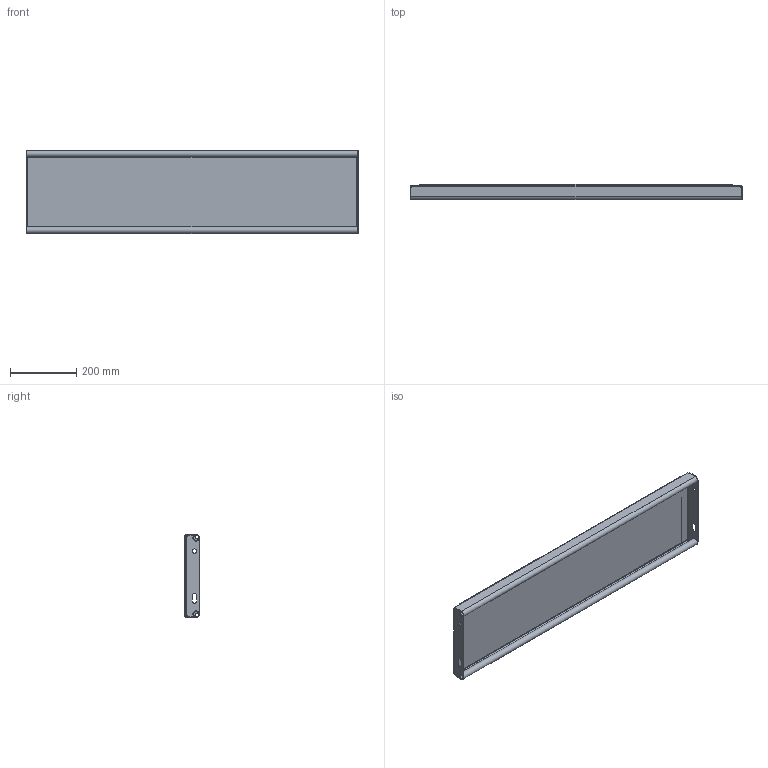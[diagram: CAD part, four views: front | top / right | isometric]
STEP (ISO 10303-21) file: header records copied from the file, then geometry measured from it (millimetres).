
FILE_DESCRIPTION (( 'STEP AP214' ), '1' );
FILE_NAME ('OPTIMO-Tread-Achil-O2-1000x250x45x2-st240-F100360100_plain.STEP', '2021-03-16T14:01:54', ( '' ), ( '' ), 'SwSTEP 2.0', 'SolidWorks 2021', '' );
FILE_SCHEMA (( 'AUTOMOTIVE_DESIGN' ));
Length unit declared in the file: millimetre
Products named in the file (1): OPTIMO-Tread-Achil-O2-1000x250x45x2-st240-F100360100_plain
Bounding box: 1000 x 45 x 250 mm (x, y, z)
Volume: 1525882.7 mm3; surface area: 857189.5 mm2
Topology: 1 solids, 1 shells, 248 faces, 640 edges, 412 vertices
Faces by surface type: plane 173, bspline 39, cylinder 36
Entity records: 9924 total; most frequent: CARTESIAN_POINT 4092, ORIENTED_EDGE 1280, DIRECTION 1022, EDGE_CURVE 640, VECTOR 490, LINE 490, VERTEX_POINT 412, EDGE_LOOP 274
